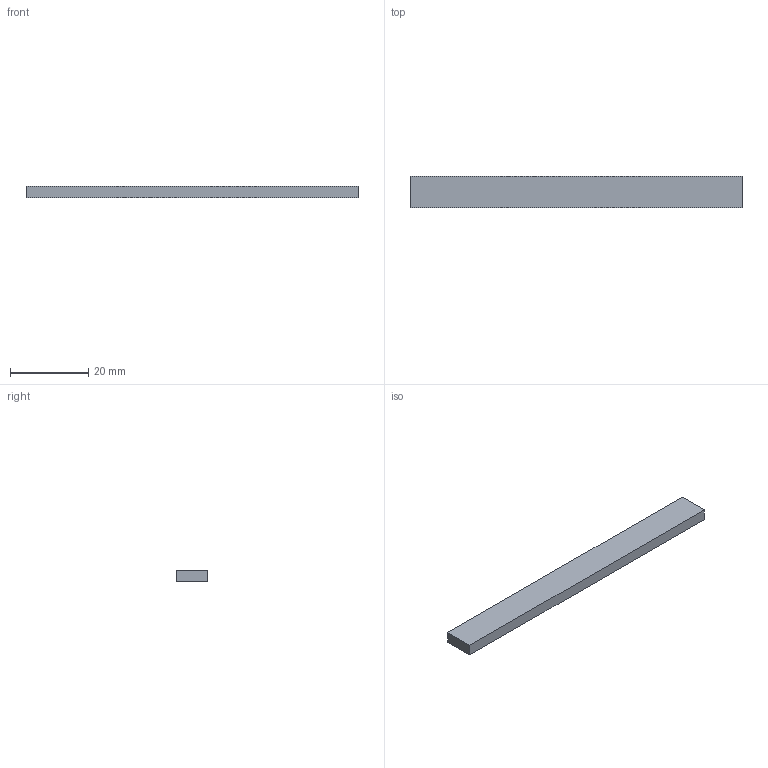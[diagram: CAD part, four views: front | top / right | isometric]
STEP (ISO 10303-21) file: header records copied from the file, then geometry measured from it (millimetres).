
FILE_DESCRIPTION(('Open CASCADE Model'),'2;1');
FILE_NAME('Open CASCADE Shape Model','2026-11-20T22:44:44',('Author'),( 'Open CASCADE'),'Open CASCADE STEP processor 7.8','Open CASCADE 7.8' ,'Unknown');
FILE_SCHEMA(('AUTOMOTIVE_DESIGN { 1 0 10303 214 1 1 1 1 }'));
Length unit declared in the file: millimetre
Products named in the file (1): Open CASCADE STEP translator 7.8 11
Bounding box: 84.6 x 8 x 3 mm (x, y, z)
Volume: 2030.4 mm3; surface area: 1909.2 mm2
Topology: 1 solids, 1 shells, 6 faces, 12 edges, 8 vertices
Faces by surface type: plane 6
Entity records: 322 total; most frequent: CARTESIAN_POINT 51, DIRECTION 50, LINE 36, VECTOR 36, ORIENTED_EDGE 24, PCURVE 24, DEFINITIONAL_REPRESENTATION 24, EDGE_CURVE 12
